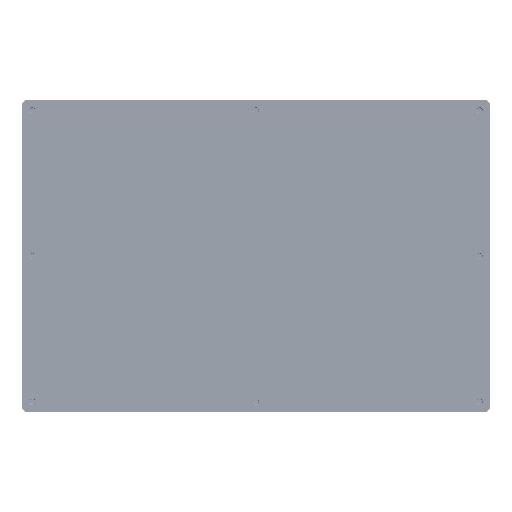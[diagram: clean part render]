
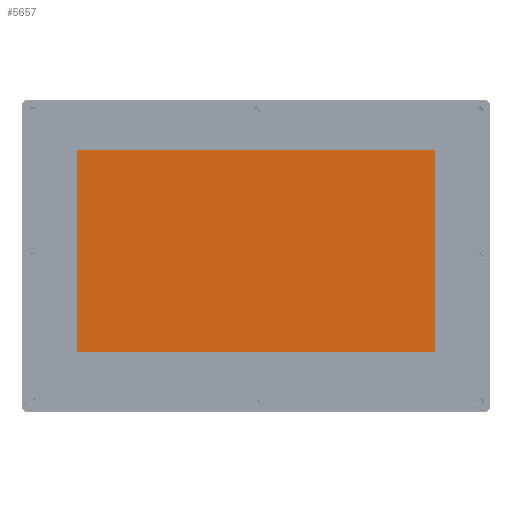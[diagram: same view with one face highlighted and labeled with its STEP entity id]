
A CAD part, top view. The second image highlights one B-rep face of the part: STEP entity #5657.
In plain terms, the highlighted planar face has unit normal (0, 0, 1).
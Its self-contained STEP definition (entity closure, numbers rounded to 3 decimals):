
#4258=DIRECTION('',(-1.,0.,0.));
#4259=VECTOR('',#4258,345.1);
#4260=CARTESIAN_POINT('',(172.55,97.,5.75));
#4261=LINE('',#4260,#4259);
#4266=DIRECTION('',(0.,1.,0.));
#4267=VECTOR('',#4266,194.);
#4268=CARTESIAN_POINT('',(172.55,-97.,5.75));
#4269=LINE('',#4268,#4267);
#4274=DIRECTION('',(1.,0.,0.));
#4275=VECTOR('',#4274,345.1);
#4276=CARTESIAN_POINT('',(-172.55,-97.,5.75));
#4277=LINE('',#4276,#4275);
#4282=DIRECTION('',(0.,-1.,0.));
#4283=VECTOR('',#4282,194.);
#4284=CARTESIAN_POINT('',(-172.55,97.,5.75));
#4285=LINE('',#4284,#4283);
#4758=CARTESIAN_POINT('',(172.55,97.,5.75));
#4759=CARTESIAN_POINT('',(-172.55,97.,5.75));
#4760=VERTEX_POINT('',#4758);
#4761=VERTEX_POINT('',#4759);
#4770=CARTESIAN_POINT('',(172.55,-97.,5.75));
#4771=VERTEX_POINT('',#4770);
#4772=CARTESIAN_POINT('',(-172.55,-97.,5.75));
#4773=VERTEX_POINT('',#4772);
#5643=CARTESIAN_POINT('',(172.55,97.,5.75));
#5644=DIRECTION('',(0.,0.,1.));
#5645=DIRECTION('',(-1.,0.,0.));
#5646=AXIS2_PLACEMENT_3D('',#5643,#5644,#5645);
#5647=PLANE('',#5646);
#5648=ORIENTED_EDGE('',*,*,#5626,.F.);
#5650=ORIENTED_EDGE('',*,*,#5649,.F.);
#5652=ORIENTED_EDGE('',*,*,#5651,.F.);
#5654=ORIENTED_EDGE('',*,*,#5653,.F.);
#5655=EDGE_LOOP('',(#5648,#5650,#5652,#5654));
#5656=FACE_OUTER_BOUND('',#5655,.F.);
#5657=ADVANCED_FACE('',(#5656),#5647,.T.);
#5626=EDGE_CURVE('',#4760,#4761,#4261,.T.);
#5649=EDGE_CURVE('',#4771,#4760,#4269,.T.);
#5651=EDGE_CURVE('',#4773,#4771,#4277,.T.);
#5653=EDGE_CURVE('',#4761,#4773,#4285,.T.);
